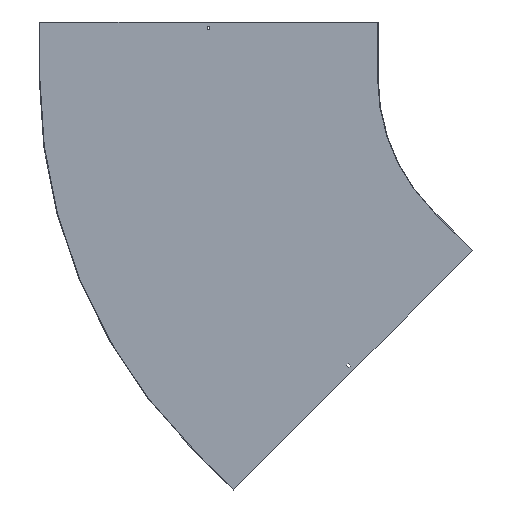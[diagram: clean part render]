
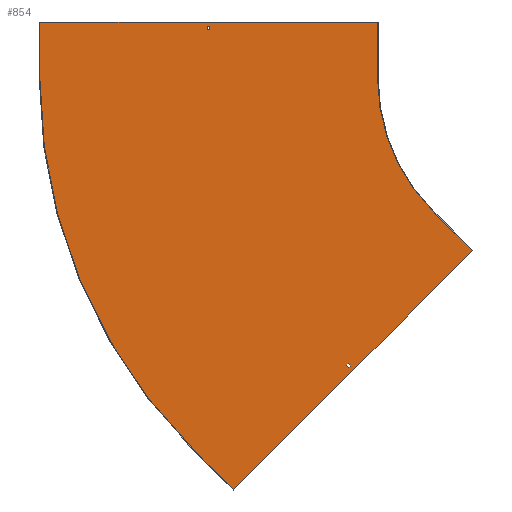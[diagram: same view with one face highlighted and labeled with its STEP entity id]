
A CAD part, front view. The second image highlights one B-rep face of the part: STEP entity #854.
In plain terms, the highlighted planar face has unit normal (0, -1, 0).
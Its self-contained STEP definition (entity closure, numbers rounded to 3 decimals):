
#1 = EDGE_CURVE ( 'NONE', #585, #309, #16, .T. ) ;
#8 = CARTESIAN_POINT ( 'NONE',  ( -500., -1.5, 150. ) ) ;
#11 = EDGE_CURVE ( 'NONE', #309, #118, #22, .T. ) ;
#16 = LINE ( 'NONE', #731, #429 ) ;
#17 = DIRECTION ( 'NONE',  ( 0., 0., -1. ) ) ;
#19 = LINE ( 'NONE', #756, #847 ) ;
#22 = LINE ( 'NONE', #153, #641 ) ;
#23 = CARTESIAN_POINT ( 'NONE',  ( -353.553, -1.5, -353.553 ) ) ;
#39 = CARTESIAN_POINT ( 'NONE',  ( -1400., -1.5, 0. ) ) ;
#40 = FACE_BOUND ( 'NONE', #322, .T. ) ;
#47 = VECTOR ( 'NONE', #536, 1000. ) ;
#48 = EDGE_CURVE ( 'NONE', #91, #504, #858, .T. ) ;
#56 = EDGE_CURVE ( 'NONE', #508, #91, #802, .T. ) ;
#58 = CARTESIAN_POINT ( 'NONE',  ( -946.75, -1.5, 138. ) ) ;
#60 = VERTEX_POINT ( 'NONE', #601 ) ;
#62 = DIRECTION ( 'NONE',  ( 0., 0., -1. ) ) ;
#64 = VERTEX_POINT ( 'NONE', #394 ) ;
#70 = ORIENTED_EDGE ( 'NONE', *, *, #767, .F. ) ;
#74 = CARTESIAN_POINT ( 'NONE',  ( 0., -1.5, 0. ) ) ;
#76 = DIRECTION ( 'NONE',  ( 0.707, 0., -0.707 ) ) ;
#79 = CARTESIAN_POINT ( 'NONE',  ( -946.75, -1.5, 129. ) ) ;
#81 = LINE ( 'NONE', #479, #116 ) ;
#87 = CARTESIAN_POINT ( 'NONE',  ( 0., -1.5, 138. ) ) ;
#88 = DIRECTION ( 'NONE',  ( -0.707, 0., 0.707 ) ) ;
#91 = VERTEX_POINT ( 'NONE', #79 ) ;
#101 = VERTEX_POINT ( 'NONE', #302 ) ;
#104 = LINE ( 'NONE', #87, #697 ) ;
#108 = CARTESIAN_POINT ( 'NONE',  ( -1401.5, -1.5, 150. ) ) ;
#116 = VECTOR ( 'NONE', #745, 1000. ) ;
#117 = CARTESIAN_POINT ( 'NONE',  ( 0., -1.5, 0. ) ) ;
#118 = VERTEX_POINT ( 'NONE', #220 ) ;
#121 = CIRCLE ( 'NONE', #593, 500. ) ;
#122 = VECTOR ( 'NONE', #164, 1000. ) ;
#127 = DIRECTION ( 'NONE',  ( 0., -1., 0. ) ) ;
#136 = CARTESIAN_POINT ( 'NONE',  ( -946.75, -1.5, 0. ) ) ;
#149 = DIRECTION ( 'NONE',  ( -0.707, 0., -0.707 ) ) ;
#153 = CARTESIAN_POINT ( 'NONE',  ( 97.581, -1.5, -97.581 ) ) ;
#159 = DIRECTION ( 'NONE',  ( 1., 0., 0. ) ) ;
#161 = ORIENTED_EDGE ( 'NONE', *, *, #330, .F. ) ;
#164 = DIRECTION ( 'NONE',  ( 0., 0., 1. ) ) ;
#174 = ORIENTED_EDGE ( 'NONE', *, *, #340, .F. ) ;
#176 = FACE_BOUND ( 'NONE', #572, .T. ) ;
#184 = ORIENTED_EDGE ( 'NONE', *, *, #305, .F. ) ;
#189 = AXIS2_PLACEMENT_3D ( 'NONE', #294, #412, #333 ) ;
#191 = CARTESIAN_POINT ( 'NONE',  ( -582.833, -1.5, -765.266 ) ) ;
#192 = ORIENTED_EDGE ( 'NONE', *, *, #11, .F. ) ;
#206 = LINE ( 'NONE', #345, #667 ) ;
#220 = CARTESIAN_POINT ( 'NONE',  ( -571.873, -1.5, -767.034 ) ) ;
#227 = DIRECTION ( 'NONE',  ( -0.707, 0., 0.707 ) ) ;
#234 = VERTEX_POINT ( 'NONE', #643 ) ;
#237 = CARTESIAN_POINT ( 'NONE',  ( -1400., -1.5, 0. ) ) ;
#246 = VECTOR ( 'NONE', #527, 1000. ) ;
#260 = ORIENTED_EDGE ( 'NONE', *, *, #695, .T. ) ;
#264 = CARTESIAN_POINT ( 'NONE',  ( -883.883, -1.5, -1096.016 ) ) ;
#267 = EDGE_CURVE ( 'NONE', #736, #378, #121, .T. ) ;
#274 = CARTESIAN_POINT ( 'NONE',  ( 0., -1.5, 129. ) ) ;
#284 = DIRECTION ( 'NONE',  ( 0., 0., 1. ) ) ;
#285 = EDGE_CURVE ( 'NONE', #60, #848, #830, .T. ) ;
#294 = CARTESIAN_POINT ( 'NONE',  ( 0., -1.5, 0. ) ) ;
#296 = EDGE_CURVE ( 'NONE', #504, #234, #740, .T. ) ;
#302 = CARTESIAN_POINT ( 'NONE',  ( -1400., -1.5, 150. ) ) ;
#303 = EDGE_CURVE ( 'NONE', #669, #585, #206, .T. ) ;
#305 = EDGE_CURVE ( 'NONE', #64, #736, #541, .T. ) ;
#309 = VERTEX_POINT ( 'NONE', #408 ) ;
#319 = EDGE_CURVE ( 'NONE', #378, #532, #668, .T. ) ;
#322 = EDGE_LOOP ( 'NONE', ( #260, #331, #575, #773 ) ) ;
#330 = EDGE_CURVE ( 'NONE', #848, #101, #673, .T. ) ;
#331 = ORIENTED_EDGE ( 'NONE', *, *, #56, .T. ) ;
#333 = DIRECTION ( 'NONE',  ( 0., 0., -1. ) ) ;
#340 = EDGE_CURVE ( 'NONE', #101, #64, #420, .T. ) ;
#344 = CARTESIAN_POINT ( 'NONE',  ( -353.553, -1.5, -353.553 ) ) ;
#345 = CARTESIAN_POINT ( 'NONE',  ( 91.217, -1.5, -91.217 ) ) ;
#356 = CARTESIAN_POINT ( 'NONE',  ( -669.453, -1.5, -669.453 ) ) ;
#361 = CARTESIAN_POINT ( 'NONE',  ( -500., -1.5, 0. ) ) ;
#369 = FACE_OUTER_BOUND ( 'NONE', #637, .T. ) ;
#378 = VERTEX_POINT ( 'NONE', #344 ) ;
#394 = CARTESIAN_POINT ( 'NONE',  ( -500., -1.5, 150. ) ) ;
#401 = VECTOR ( 'NONE', #487, 1000. ) ;
#408 = CARTESIAN_POINT ( 'NONE',  ( -576.469, -1.5, -771.63 ) ) ;
#412 = DIRECTION ( 'NONE',  ( 0., 1., 0. ) ) ;
#417 = DIRECTION ( 'NONE',  ( 0., -1., 0. ) ) ;
#419 = CARTESIAN_POINT ( 'NONE',  ( -578.237, -1.5, -760.67 ) ) ;
#420 = LINE ( 'NONE', #108, #401 ) ;
#429 = VECTOR ( 'NONE', #538, 1000. ) ;
#471 = VECTOR ( 'NONE', #682, 1000. ) ;
#479 = CARTESIAN_POINT ( 'NONE',  ( -246.427, -1.5, -458.559 ) ) ;
#485 = VERTEX_POINT ( 'NONE', #264 ) ;
#487 = DIRECTION ( 'NONE',  ( 1., 0., 0. ) ) ;
#502 = ORIENTED_EDGE ( 'NONE', *, *, #319, .F. ) ;
#504 = VERTEX_POINT ( 'NONE', #509 ) ;
#508 = VERTEX_POINT ( 'NONE', #58 ) ;
#509 = CARTESIAN_POINT ( 'NONE',  ( -953.25, -1.5, 129. ) ) ;
#527 = DIRECTION ( 'NONE',  ( -1., 0., 0. ) ) ;
#529 = VECTOR ( 'NONE', #76, 1000. ) ;
#532 = VERTEX_POINT ( 'NONE', #657 ) ;
#536 = DIRECTION ( 'NONE',  ( 0., 0., -1. ) ) ;
#538 = DIRECTION ( 'NONE',  ( 0.707, 0., -0.707 ) ) ;
#541 = LINE ( 'NONE', #8, #471 ) ;
#561 = LINE ( 'NONE', #356, #805 ) ;
#572 = EDGE_LOOP ( 'NONE', ( #710, #192, #845, #775 ) ) ;
#575 = ORIENTED_EDGE ( 'NONE', *, *, #48, .T. ) ;
#585 = VERTEX_POINT ( 'NONE', #191 ) ;
#587 = ORIENTED_EDGE ( 'NONE', *, *, #267, .F. ) ;
#593 = AXIS2_PLACEMENT_3D ( 'NONE', #74, #417, #17 ) ;
#596 = CARTESIAN_POINT ( 'NONE',  ( -953.25, -1.5, 0. ) ) ;
#600 = EDGE_CURVE ( 'NONE', #485, #60, #19, .T. ) ;
#601 = CARTESIAN_POINT ( 'NONE',  ( -989.949, -1.5, -989.949 ) ) ;
#637 = EDGE_LOOP ( 'NONE', ( #174, #161, #768, #765, #70, #502, #587, #184 ) ) ;
#638 = EDGE_CURVE ( 'NONE', #118, #669, #561, .T. ) ;
#641 = VECTOR ( 'NONE', #672, 1000. ) ;
#643 = CARTESIAN_POINT ( 'NONE',  ( -953.25, -1.5, 138. ) ) ;
#657 = CARTESIAN_POINT ( 'NONE',  ( -247.487, -1.5, -459.619 ) ) ;
#666 = VECTOR ( 'NONE', #284, 1000. ) ;
#667 = VECTOR ( 'NONE', #149, 1000. ) ;
#668 = LINE ( 'NONE', #23, #529 ) ;
#669 = VERTEX_POINT ( 'NONE', #419 ) ;
#672 = DIRECTION ( 'NONE',  ( 0.707, 0., 0.707 ) ) ;
#673 = LINE ( 'NONE', #237, #122 ) ;
#682 = DIRECTION ( 'NONE',  ( 0., 0., -1. ) ) ;
#695 = EDGE_CURVE ( 'NONE', #234, #508, #104, .T. ) ;
#697 = VECTOR ( 'NONE', #159, 1000. ) ;
#709 = PLANE ( 'NONE',  #748 ) ;
#710 = ORIENTED_EDGE ( 'NONE', *, *, #638, .F. ) ;
#731 = CARTESIAN_POINT ( 'NONE',  ( -674.05, -1.5, -674.05 ) ) ;
#736 = VERTEX_POINT ( 'NONE', #361 ) ;
#740 = LINE ( 'NONE', #596, #666 ) ;
#745 = DIRECTION ( 'NONE',  ( -0.707, 0., -0.707 ) ) ;
#748 = AXIS2_PLACEMENT_3D ( 'NONE', #117, #127, #62 ) ;
#756 = CARTESIAN_POINT ( 'NONE',  ( -883.883, -1.5, -1096.016 ) ) ;
#765 = ORIENTED_EDGE ( 'NONE', *, *, #600, .F. ) ;
#767 = EDGE_CURVE ( 'NONE', #532, #485, #81, .T. ) ;
#768 = ORIENTED_EDGE ( 'NONE', *, *, #285, .F. ) ;
#773 = ORIENTED_EDGE ( 'NONE', *, *, #296, .T. ) ;
#775 = ORIENTED_EDGE ( 'NONE', *, *, #303, .F. ) ;
#802 = LINE ( 'NONE', #136, #47 ) ;
#805 = VECTOR ( 'NONE', #88, 1000. ) ;
#830 = CIRCLE ( 'NONE', #189, 1400. ) ;
#845 = ORIENTED_EDGE ( 'NONE', *, *, #1, .F. ) ;
#847 = VECTOR ( 'NONE', #227, 1000. ) ;
#848 = VERTEX_POINT ( 'NONE', #39 ) ;
#854 = ADVANCED_FACE ( 'NONE', ( #176, #369, #40 ), #709, .T. ) ;
#858 = LINE ( 'NONE', #274, #246 ) ;
